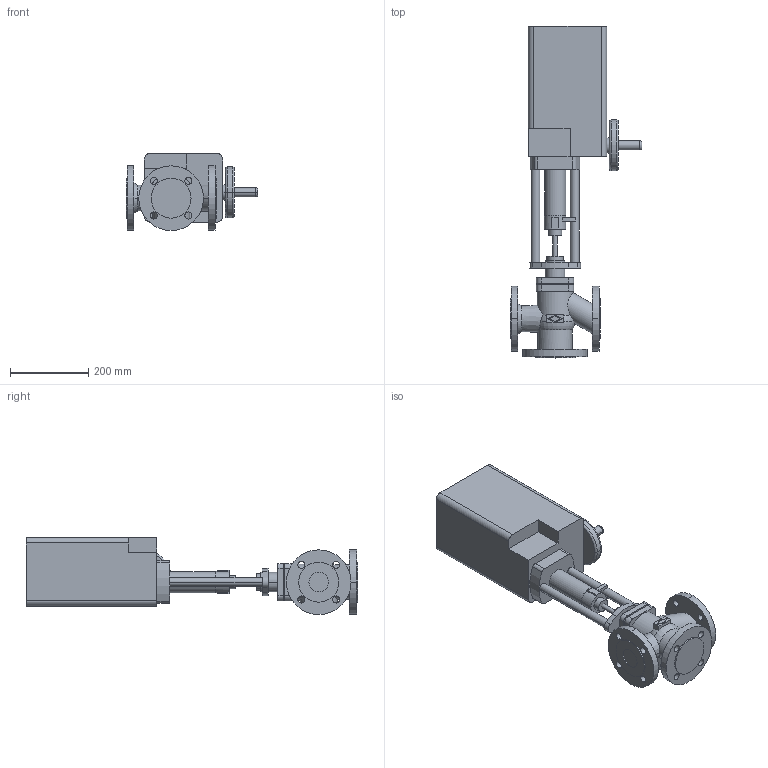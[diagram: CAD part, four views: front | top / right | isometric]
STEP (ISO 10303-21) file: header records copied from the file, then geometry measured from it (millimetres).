
FILE_DESCRIPTION(('OneSpaceDesigner STEP Export'),'2;1');
FILE_NAME('c000002420.stp','2006-09-19T12:09:47',(''),(''),'OneSpace Designer STEP processor for AP214 (Solid Model)','OneSpace Designer 13.20A 18-Aug-2005 (C) CoCreate Software GmbH','');
FILE_SCHEMA(('AUTOMOTIVE_DESIGN { 1 0 10303 214 1 1 1 1 }'));
Length unit declared in the file: millimetre
Products named in the file (2): 1; 2
Bounding box: 336.6 x 847 x 196.5 mm (x, y, z)
Volume: 15765822 mm3; surface area: 698317.6 mm2
Topology: 2 solids, 2 shells, 198 faces, 486 edges, 321 vertices
Faces by surface type: cylinder 96, plane 86, torus 12, cone 4
Entity records: 5738 total; most frequent: CARTESIAN_POINT 1311, ORIENTED_EDGE 972, DIRECTION 823, EDGE_CURVE 486, VERTEX_POINT 321, AXIS2_PLACEMENT_3D 293, EDGE_LOOP 251, VECTOR 237
